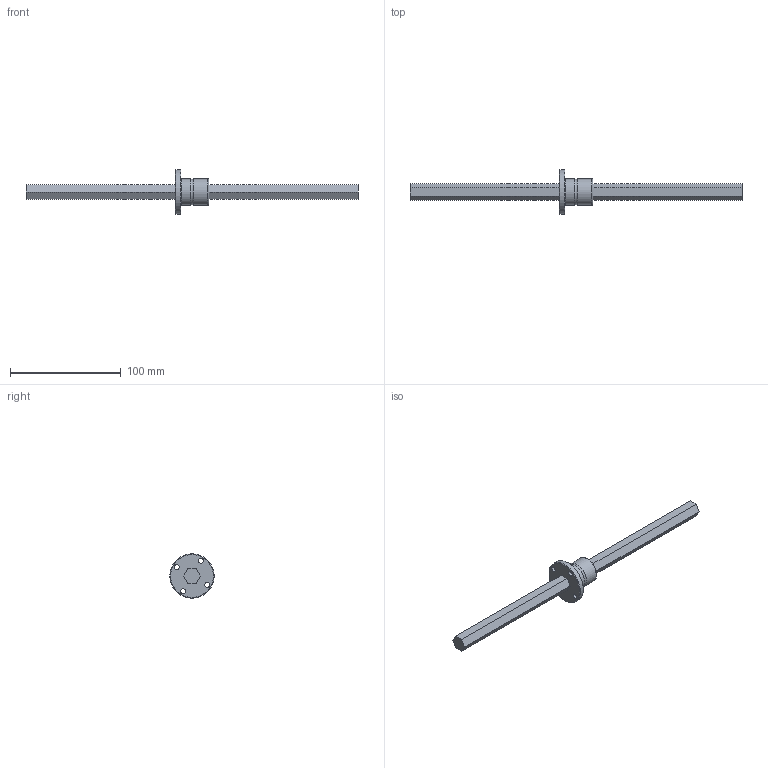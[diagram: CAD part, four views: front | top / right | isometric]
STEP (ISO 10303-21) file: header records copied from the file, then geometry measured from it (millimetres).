
FILE_DESCRIPTION((''),'2;1');
FILE_NAME('D:\製品 (図面)\カタログ用3D\ネジ関連\STEP形式\HTF\HTF13.stp','2010-06-01T16:47:54',('Tsuchiya'),(''),'Autodesk Inventor 10','Autodesk Inventor 10','');
FILE_SCHEMA(('AUTOMOTIVE_DESIGN { 1 0 10303 214 1 1 1 1 }'));
Length unit declared in the file: millimetre
Products named in the file (3): HTF13; HTF131; HTF132
Assembly tree (2 placements, depth 2):
  HTF13
    HTF131
    HTF132
Bounding box: 300 x 40 x 40 mm (x, y, z)
Volume: 56541.7 mm3; surface area: 20069.4 mm2
Topology: 2 solids, 2 shells, 39 faces, 96 edges, 64 vertices
Faces by surface type: plane 25, cylinder 9, cone 2, bspline 2, torus 1
Full cylindrical faces by diameter (mm): 1.5 x1, 4.5 x4, 16 x1, 24 x2, 40 x1
Entity records: 1332 total; most frequent: CARTESIAN_POINT 396, DIRECTION 178, ORIENTED_EDGE 152, EDGE_CURVE 76, EDGE_LOOP 68, AXIS2_PLACEMENT_3D 62, VERTEX_POINT 58, VECTOR 54
